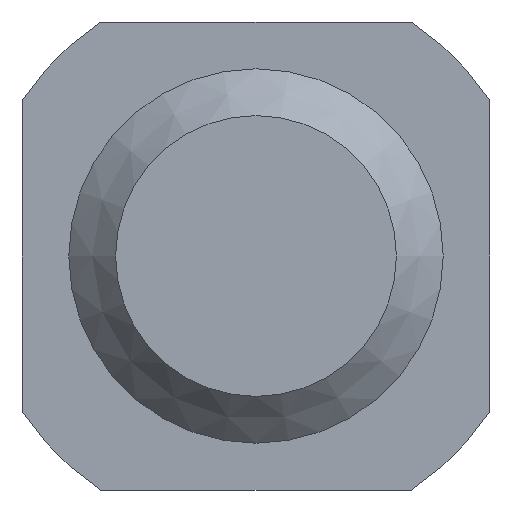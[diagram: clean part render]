
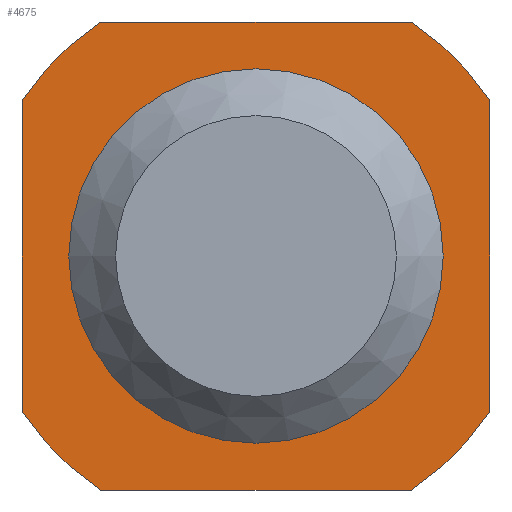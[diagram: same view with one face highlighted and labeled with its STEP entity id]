
A CAD part, front view. The second image highlights one B-rep face of the part: STEP entity #4675.
In plain terms, the highlighted planar face has unit normal (0, -1, 0).
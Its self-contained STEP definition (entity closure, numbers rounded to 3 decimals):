
#4675=ADVANCED_FACE('',(#34039,#34041),#34043,.T.);
#34039=FACE_BOUND('',#34040,.T.);
#34040=EDGE_LOOP('',(#61380,#61381,#61382,#61383,#61384,#61385,#61386,#61387));
#34041=FACE_BOUND('',#34042,.T.);
#34042=EDGE_LOOP('',(#61388));
#34043=PLANE('',#34044);
#34044=AXIS2_PLACEMENT_3D('',#34045,#34046,#34047);
#34045=CARTESIAN_POINT('',(0.,-47.,0.));
#34046=DIRECTION('',(0.,-1.,0.));
#34047=DIRECTION('',(-1.,0.,0.));
#61380=ORIENTED_EDGE('',*,*,#67353,.T.);
#61381=ORIENTED_EDGE('',*,*,#67431,.T.);
#61382=ORIENTED_EDGE('',*,*,#67429,.T.);
#61383=ORIENTED_EDGE('',*,*,#67427,.T.);
#61384=ORIENTED_EDGE('',*,*,#67425,.T.);
#61385=ORIENTED_EDGE('',*,*,#67359,.T.);
#61386=ORIENTED_EDGE('',*,*,#67357,.T.);
#61387=ORIENTED_EDGE('',*,*,#67355,.T.);
#61388=ORIENTED_EDGE('',*,*,#67433,.F.);
#67353=EDGE_CURVE('',#70410,#70408,#70411,.F.);
#67355=EDGE_CURVE('',#70413,#70410,#70414,.T.);
#67357=EDGE_CURVE('',#70416,#70413,#70417,.F.);
#67359=EDGE_CURVE('',#70419,#70416,#70420,.T.);
#67425=EDGE_CURVE('',#70550,#70419,#70551,.F.);
#67427=EDGE_CURVE('',#70553,#70550,#70554,.T.);
#67429=EDGE_CURVE('',#70556,#70553,#70557,.F.);
#67431=EDGE_CURVE('',#70408,#70556,#70559,.T.);
#67433=EDGE_CURVE('',#70562,#70562,#70563,.T.);
#70408=VERTEX_POINT('',#76421);
#70410=VERTEX_POINT('',#76425);
#70411=CIRCLE('',#76426,6.);
#70413=VERTEX_POINT('',#76433);
#70414=LINE('',#76434,#76435);
#70416=VERTEX_POINT('',#76440);
#70417=CIRCLE('',#76441,6.);
#70419=VERTEX_POINT('',#76448);
#70420=LINE('',#76449,#76450);
#70550=VERTEX_POINT('',#76754);
#70551=CIRCLE('',#76755,6.);
#70553=VERTEX_POINT('',#76762);
#70554=LINE('',#76763,#76764);
#70556=VERTEX_POINT('',#76769);
#70557=CIRCLE('',#76770,6.);
#70559=LINE('',#76777,#76778);
#70562=VERTEX_POINT('',#76785);
#70563=CIRCLE('',#76786,3.1);
#76421=CARTESIAN_POINT('',(3.317,-47.,5.));
#76425=CARTESIAN_POINT('',(5.,-47.,3.317));
#76426=AXIS2_PLACEMENT_3D('',#76427,#76428,#76429);
#76427=CARTESIAN_POINT('',(0.,-47.,0.));
#76428=DIRECTION('',(0.,1.,0.));
#76429=DIRECTION('',(0.553,0.,0.833));
#76433=CARTESIAN_POINT('',(5.,-47.,-3.317));
#76434=CARTESIAN_POINT('',(5.,-47.,-3.317));
#76435=VECTOR('',#76436,1.);
#76436=DIRECTION('',(0.,0.,1.));
#76440=CARTESIAN_POINT('',(3.317,-47.,-5.));
#76441=AXIS2_PLACEMENT_3D('',#76442,#76443,#76444);
#76442=CARTESIAN_POINT('',(0.,-47.,0.));
#76443=DIRECTION('',(0.,1.,0.));
#76444=DIRECTION('',(0.833,0.,-0.553));
#76448=CARTESIAN_POINT('',(-3.317,-47.,-5.));
#76449=CARTESIAN_POINT('',(-3.317,-47.,-5.));
#76450=VECTOR('',#76451,1.);
#76451=DIRECTION('',(1.,0.,0.));
#76754=CARTESIAN_POINT('',(-5.,-47.,-3.317));
#76755=AXIS2_PLACEMENT_3D('',#76756,#76757,#76758);
#76756=CARTESIAN_POINT('',(0.,-47.,0.));
#76757=DIRECTION('',(0.,1.,0.));
#76758=DIRECTION('',(-0.553,0.,-0.833));
#76762=CARTESIAN_POINT('',(-5.,-47.,3.317));
#76763=CARTESIAN_POINT('',(-5.,-47.,3.317));
#76764=VECTOR('',#76765,1.);
#76765=DIRECTION('',(0.,0.,-1.));
#76769=CARTESIAN_POINT('',(-3.317,-47.,5.));
#76770=AXIS2_PLACEMENT_3D('',#76771,#76772,#76773);
#76771=CARTESIAN_POINT('',(0.,-47.,0.));
#76772=DIRECTION('',(0.,1.,0.));
#76773=DIRECTION('',(-0.833,0.,0.553));
#76777=CARTESIAN_POINT('',(3.317,-47.,5.));
#76778=VECTOR('',#76779,1.);
#76779=DIRECTION('',(-1.,0.,0.));
#76785=CARTESIAN_POINT('',(0.,-47.,-3.1));
#76786=AXIS2_PLACEMENT_3D('',#76787,#76788,#76789);
#76787=CARTESIAN_POINT('',(0.,-47.,0.));
#76788=DIRECTION('',(0.,-1.,0.));
#76789=DIRECTION('',(0.,0.,-1.));
